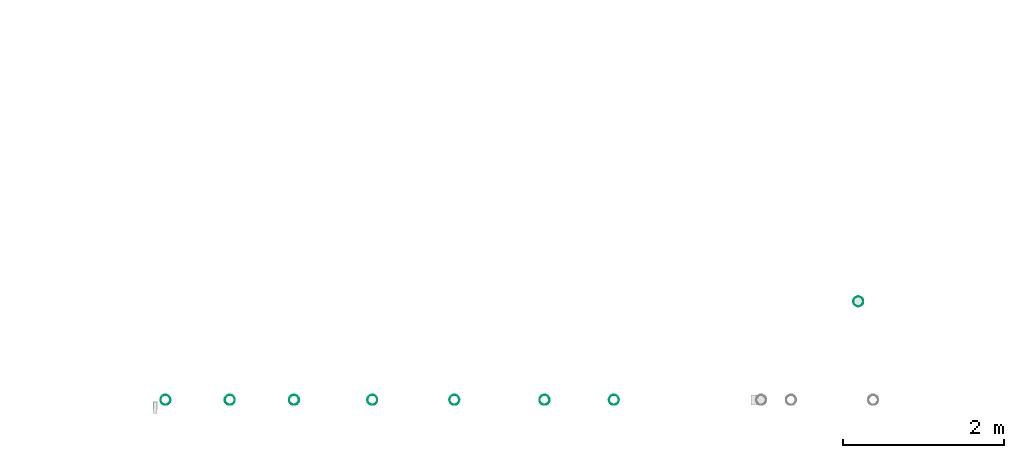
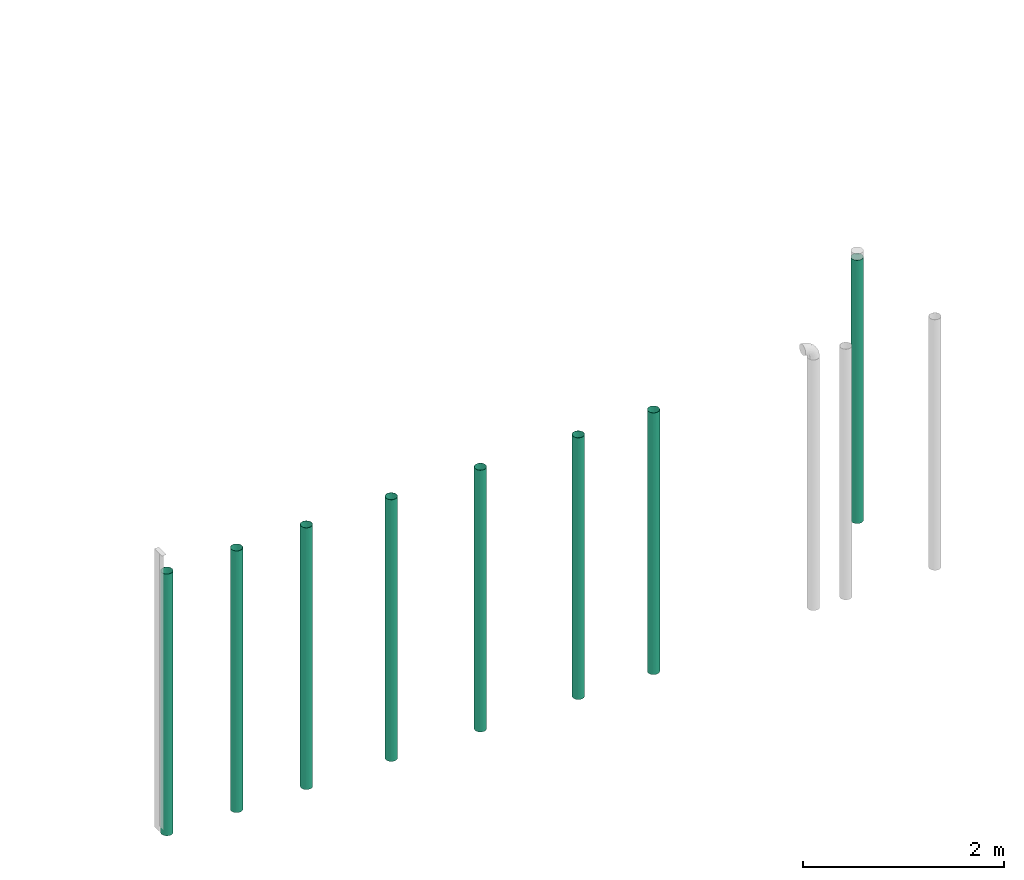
# One storey, part 1 of 7: 8 flow segments.
"""IFC2X3 building model written with IfcOpenShell, lengths in millimetres."""

from ifc_helpers import new_model, entity, si_unit, converted_unit, derived_unit, direction, frame, origin_with_axes, origin_2d_with_axis, place, context, subcontext, project, spatial, hollow_circle, extrude, source, transform, mapped, type_object, element, save


model = new_model("IFC2X3")

# Units and contexts
model_context = context("Model", 3, precision=0.01, world=frame((0.0, 4.29681676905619e-09, 0.0)), true_north=direction((4.01073788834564e-13, 1.0)))
plan_context = context("Plan", 3, precision=0.01, world=frame((0.0, 4.29681676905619e-09, 0.0)), true_north=direction((4.01073788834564e-13, 1.0)))
body_context = subcontext(model_context, "Body", "Model", "MODEL_VIEW")
ifc_project = project(units=[converted_unit("PLANEANGLEUNIT", "DEGREE", entity("IfcPositiveLengthMeasure", 0.0174532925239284), si_unit("PLANEANGLEUNIT", "RADIAN"), dimensions=[0, 0, 0, 0, 0, 0, 0]), si_unit("AREAUNIT", "SQUARE_METRE"), si_unit("LENGTHUNIT", "METRE", prefix="MILLI"), si_unit("MASSUNIT", "GRAM", prefix="KILO"), si_unit("POWERUNIT", "WATT"), si_unit("PRESSUREUNIT", "PASCAL"), si_unit("FORCEUNIT", "NEWTON", prefix="KILO"), si_unit("ELECTRICVOLTAGEUNIT", "VOLT"), si_unit("ELECTRICCURRENTUNIT", "AMPERE"), si_unit("THERMODYNAMICTEMPERATUREUNIT", "DEGREE_CELSIUS"), si_unit("TIMEUNIT", "SECOND"), si_unit("VOLUMEUNIT", "CUBIC_METRE"), derived_unit("LINEARVELOCITYUNIT", [(si_unit("LENGTHUNIT", "METRE"), 1), (si_unit("TIMEUNIT", "SECOND"), -1)]), derived_unit("VOLUMETRICFLOWRATEUNIT", [(si_unit("VOLUMEUNIT", "CUBIC_METRE"), 1), (si_unit("TIMEUNIT", "SECOND"), -1)]), derived_unit("THERMALTRANSMITTANCEUNIT", [(si_unit("POWERUNIT", "WATT"), 1), (si_unit("THERMODYNAMICTEMPERATUREUNIT", "KELVIN"), -1), (si_unit("AREAUNIT", "SQUARE_METRE"), -1)]), derived_unit("SOUNDPRESSUREUNIT", [(si_unit("PRESSUREUNIT", "PASCAL"), 1)])], contexts=[model_context, plan_context])

# Site, building, storey
site_placement = place(None, frame((0.0, -4.29681676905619e-09, 0.0), z_axis=(0.0, 0.0, 1.0), x_axis=(1.0, 0.0, 0.0)))
site = spatial("IfcSite", under=ifc_project, at=site_placement, CompositionType="ELEMENT")
building_placement = place(site_placement, frame((0.0, 4.29681676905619e-09, 0.0), z_axis=(0.0, 0.0, 1.0), x_axis=(1.0, 0.0, 0.0)))
building = spatial("IfcBuilding", under=site, at=building_placement, Name="mc-building", CompositionType="ELEMENT")
storey_placement = place(building_placement, frame((0.0, 0.0, 207370.0), z_axis=(0.0, 0.0, 1.0), x_axis=(1.0, 0.0, 0.0)))
storey = spatial("IfcBuildingStorey", under=building, at=storey_placement, Name="Nivå E", CompositionType="ELEMENT", Elevation=207370.0)

# Flow segments
duct_segment_type_1 = type_object("IfcDuctSegmentType", Name="Sirkulær kanal", PredefinedType="RIGIDSEGMENT")
shared_shape_1 = source(origin_with_axes(), body_context, "Body", "SweptSolid", [
    extrude(hollow_circle(Radius=62.5, WallThickness=2.0, at=origin_2d_with_axis()), frame((0.0, 0.0, 0.0), z_axis=(1.0, 0.0, 0.0), x_axis=(0.0, 1.0, 0.0)), (0.0, 0.0, 1.0), 3173.0),
])
flow_segment_1_placement = place(storey_placement, frame((528204.23125, 440892.96265, 2395.0), z_axis=(0.0, -1.0, 0.0), x_axis=(0.0, 0.0, 1.0)))
element("IfcFlowSegment", 1, at=flow_segment_1_placement, inside=storey, type_object=duct_segment_type_1, Name="Sirkulær kanal", context=body_context, shape_type="MappedRepresentation", body=[
    mapped(shared_shape_1, transform((0.0, 0.0, 0.0), scale=1.0)),
])
duct_segment_type_2 = type_object("IfcDuctSegmentType", Name="KK001T - Spiro kanaler, Forsinket stål", PredefinedType="RIGIDSEGMENT")
for number, where, z_axis, x_axis in (
    (2, (527341.16875, 440892.96265, 5568.0), (0.0, -1.0, 0.0), (0.0, 0.0, -1.0)),
    (3, (526219.16875, 440892.96265, 5568.0), (0.0, -1.0, 0.0), (0.0, 0.0, -1.0)),
    (4, (525197.16875, 440892.96265, 5568.0), (0.0, -1.0, 0.0), (0.0, 0.0, -1.0)),
    (5, (524223.16875, 440892.96265, 5568.0), (0.0, -1.0, 0.0), (0.0, 0.0, -1.0)),
    (6, (523423.16875, 440892.96265, 5568.0), (0.0, -1.0, 0.0), (0.0, 0.0, -1.0)),
    (7, (522623.16875, 440892.96265, 5568.0), (0.0, -1.0, 0.0), (0.0, 0.0, -1.0)),
):
    element("IfcFlowSegment", number, at=place(storey_placement, frame(where, z_axis=z_axis, x_axis=x_axis)), inside=storey, type_object=duct_segment_type_2, Name="KK001T - Spiro kanaler, Forsinket stål", context=body_context, shape_type="MappedRepresentation", body=[
        mapped(shared_shape_1, transform((0.0, 0.0, 0.0), scale=1.0)),
    ])
shared_shape_2 = source(origin_with_axes(), body_context, "Body", "SweptSolid", [
    extrude(hollow_circle(Radius=62.5, WallThickness=2.0, at=origin_2d_with_axis()), frame((0.0, 0.0, 0.0), z_axis=(1.0, 0.0, 0.0), x_axis=(0.0, 1.0, 0.0)), (0.0, 0.0, 1.0), 3192.5),
])
flow_segment_2_placement = place(storey_placement, frame((531246.40768, 442118.25015, 2418.0), z_axis=(1.0, 0.0, 0.0), x_axis=(0.0, 0.0, 1.0)))
element("IfcFlowSegment", 8, at=flow_segment_2_placement, inside=storey, type_object=duct_segment_type_1, Name="Sirkulær kanal", context=body_context, shape_type="MappedRepresentation", body=[
    mapped(shared_shape_2, transform((0.0, 0.0, 0.0), scale=1.0)),
])

save(model, "model.ifc")
